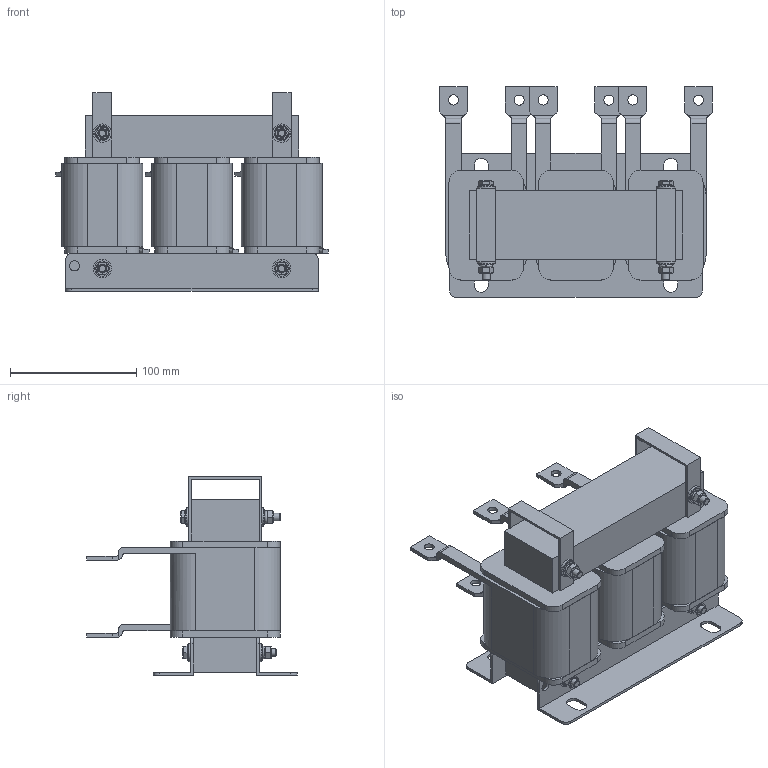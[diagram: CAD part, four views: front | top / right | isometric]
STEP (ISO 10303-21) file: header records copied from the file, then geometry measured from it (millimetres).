
FILE_DESCRIPTION(('STEP AP203'), '1');
FILE_NAME('栖闉罻 _ ISF-55_113-4', '', ('UNSPECIFIED'), ('UNSPECIFIED'), 'ASCON STEP Converter 1.6', 'ASCON Math Kernel', '');
FILE_SCHEMA(('CONFIG_CONTROL_DESIGN'));
Length unit declared in the file: millimetre
Products named in the file (13): ISF-55_113-4
Assembly tree (43 placements, depth 2):
  ISF-55_113-4
    ISF-55_113-4
    ISF-55_113-4  x2
    ISF-55_113-4  x6
    ISF-55_113-4  x3
    ISF-55_113-4
    ISF-55_113-4  x2
    ISF-55_113-4  x8
    ISF-55_113-4  x8
    ISF-55_113-4  x4
    ISF-55_113-4  x4
    ISF-55_113-4  x2
    ISF-55_113-4  x2
Bounding box: 216 x 166.5 x 157.2 mm (x, y, z)
Volume: 1820143 mm3; surface area: 309813.1 mm2
Topology: 43 solids, 43 shells, 526 faces, 1188 edges, 752 vertices
Faces by surface type: plane 374, cylinder 136, cone 12, torus 4
Full cylindrical faces by diameter (mm): 6 x36, 8 x8, 12 x8, 14.5 x8
Entity records: 6771 total; most frequent: CARTESIAN_POINT 1167, DIRECTION 924, ORIENTED_EDGE 796, EDGE_CURVE 398, AXIS2_PLACEMENT_3D 311, LINE 302, VECTOR 302, VERTEX_POINT 266
